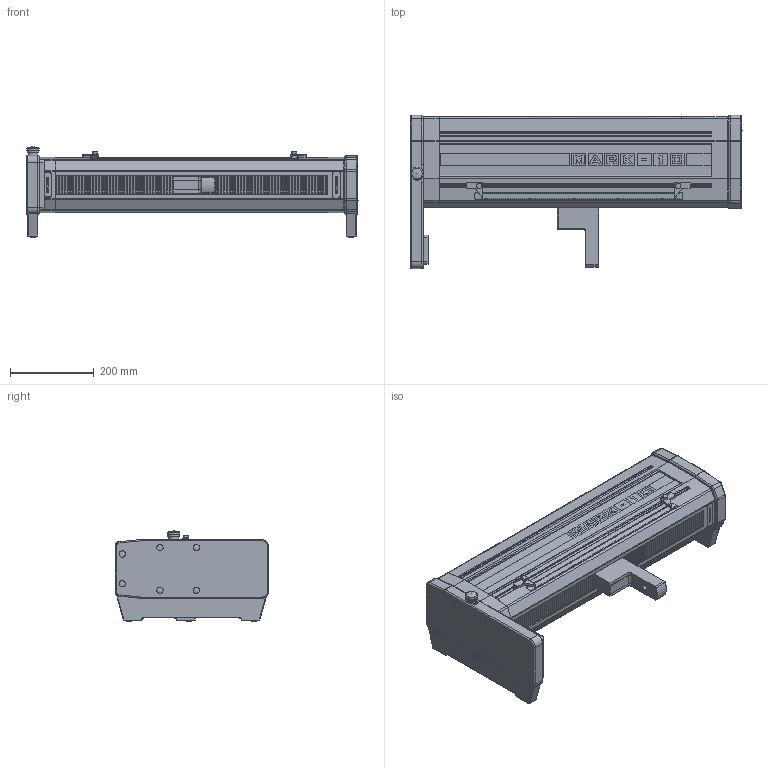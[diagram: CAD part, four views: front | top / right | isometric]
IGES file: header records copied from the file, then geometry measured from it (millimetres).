
Global section: file name: F505H_IM; native system: Autodesk RealDWG; preprocessor: Autodesk Translation Framework DWG producer (atf_dwg_producer); organization: unknown; date: 20210205.154523; units: inch
Bounding box: 792.34 x 365.76 x 215.19 mm (x, y, z)
Volume: 22005347 mm3; surface area: 1172573.9 mm2
Topology: 6 solids, 9 shells, 8916 faces, 24837 edges, 16499 vertices
Faces by surface type: bspline 8916
